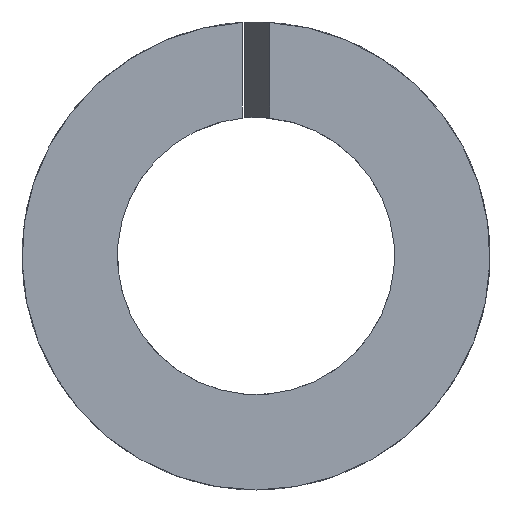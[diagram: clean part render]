
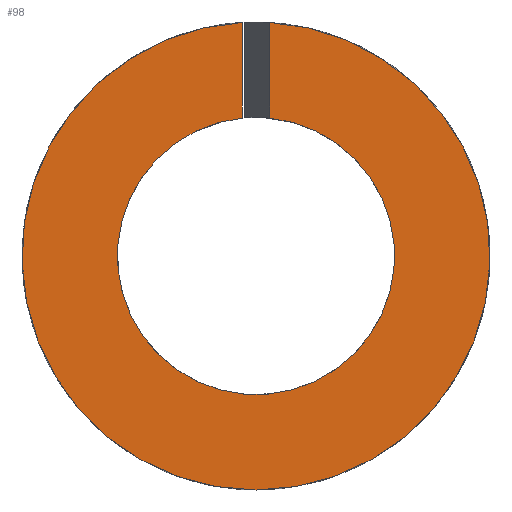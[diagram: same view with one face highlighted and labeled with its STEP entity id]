
A CAD part, left-side view. The second image highlights one B-rep face of the part: STEP entity #98.
In plain terms, the highlighted planar face has unit normal (-1, 0, 0).
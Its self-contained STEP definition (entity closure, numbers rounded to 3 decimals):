
#19=CIRCLE('',#132,6.1);
#20=CIRCLE('',#134,10.3);
#26=FACE_OUTER_BOUND('',#32,.T.);
#32=EDGE_LOOP('',(#85,#86,#87,#88));
#34=LINE('',#179,#38);
#35=LINE('',#185,#39);
#38=VECTOR('',#145,10.);
#39=VECTOR('',#150,10.);
#46=VERTEX_POINT('',#173);
#48=VERTEX_POINT('',#177);
#49=VERTEX_POINT('',#181);
#51=VERTEX_POINT('',#184);
#56=EDGE_CURVE('',#46,#48,#34,.T.);
#58=EDGE_CURVE('',#51,#49,#35,.T.);
#63=EDGE_CURVE('',#49,#46,#19,.T.);
#64=EDGE_CURVE('',#48,#51,#20,.T.);
#85=ORIENTED_EDGE('',*,*,#58,.T.);
#86=ORIENTED_EDGE('',*,*,#63,.T.);
#87=ORIENTED_EDGE('',*,*,#56,.T.);
#88=ORIENTED_EDGE('',*,*,#64,.T.);
#92=PLANE('',#135);
#98=ADVANCED_FACE('',(#26),#92,.T.);
#132=AXIS2_PLACEMENT_3D('',#193,#162,#163);
#134=AXIS2_PLACEMENT_3D('',#195,#166,#167);
#135=AXIS2_PLACEMENT_3D('',#196,#168,#169);
#145=DIRECTION('',(0.,0.,1.));
#150=DIRECTION('',(0.,0.,-1.));
#162=DIRECTION('center_axis',(1.,0.,0.));
#163=DIRECTION('ref_axis',(0.,-1.,0.));
#166=DIRECTION('center_axis',(-1.,0.,0.));
#167=DIRECTION('ref_axis',(0.,-1.,0.));
#168=DIRECTION('center_axis',(-1.,0.,0.));
#169=DIRECTION('ref_axis',(0.,0.,1.));
#173=CARTESIAN_POINT('',(0.,0.6,6.07));
#177=CARTESIAN_POINT('',(0.,0.6,10.283));
#179=CARTESIAN_POINT('',(0.,0.6,0.));
#181=CARTESIAN_POINT('',(0.,-0.6,6.07));
#184=CARTESIAN_POINT('',(0.,-0.6,10.283));
#185=CARTESIAN_POINT('',(0.,-0.6,0.));
#193=CARTESIAN_POINT('Origin',(0.,0.,0.));
#195=CARTESIAN_POINT('Origin',(0.,0.,0.));
#196=CARTESIAN_POINT('Origin',(0.,0.,0.));
